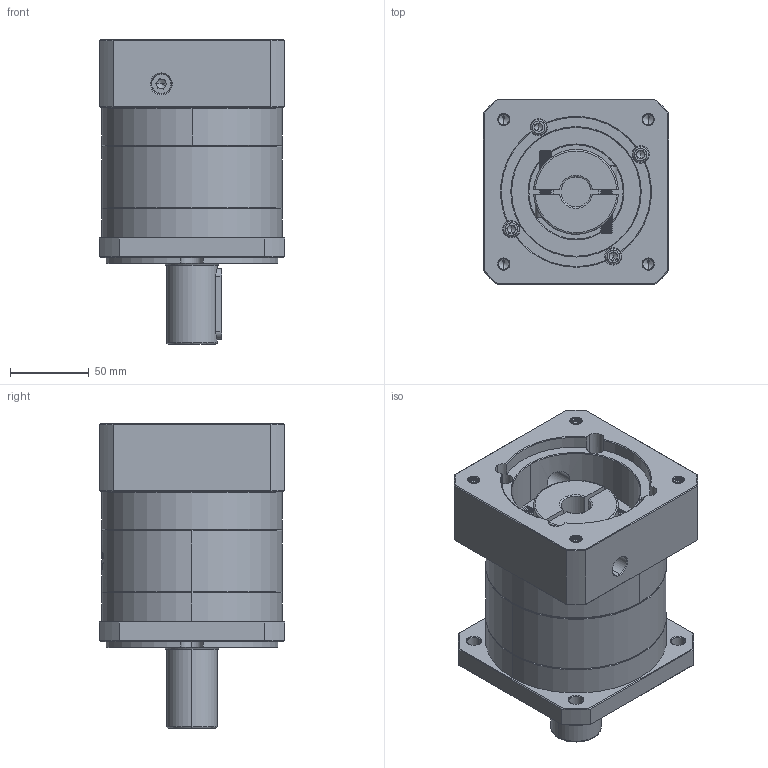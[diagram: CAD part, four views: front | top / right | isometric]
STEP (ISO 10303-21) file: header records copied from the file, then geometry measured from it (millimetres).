
FILE_DESCRIPTION (( 'STEP AP214' ), '1' );
FILE_NAME ('ZF120A-D32-L1-P2-19-95-130-M8.step', '2023-08-27T04:43:38', ( '' ), ( '' ), 'SwSTEP 2.0', 'SolidWorks 2016', '' );
FILE_SCHEMA (( 'AUTOMOTIVE_DESIGN' ));
Length unit declared in the file: millimetre
Products named in the file (1): ZF120A-D32-L1-P2-19-95-130-M8
Bounding box: 118 x 118 x 193.5 mm (x, y, z)
Volume: 1478238.8 mm3; surface area: 167486 mm2
Topology: 6 solids, 6 shells, 2226 faces, 5912 edges, 3787 vertices
Faces by surface type: plane 1034, cylinder 425, bspline 419, cone 328, torus 20
Entity records: 123318 total; most frequent: CARTESIAN_POINT 48960, ORIENTED_EDGE 11764, DIRECTION 8527, EDGE_CURVE 5882, VERTEX_POINT 3787, VECTOR 3099, LINE 3099, AXIS2_PLACEMENT_3D 2714
